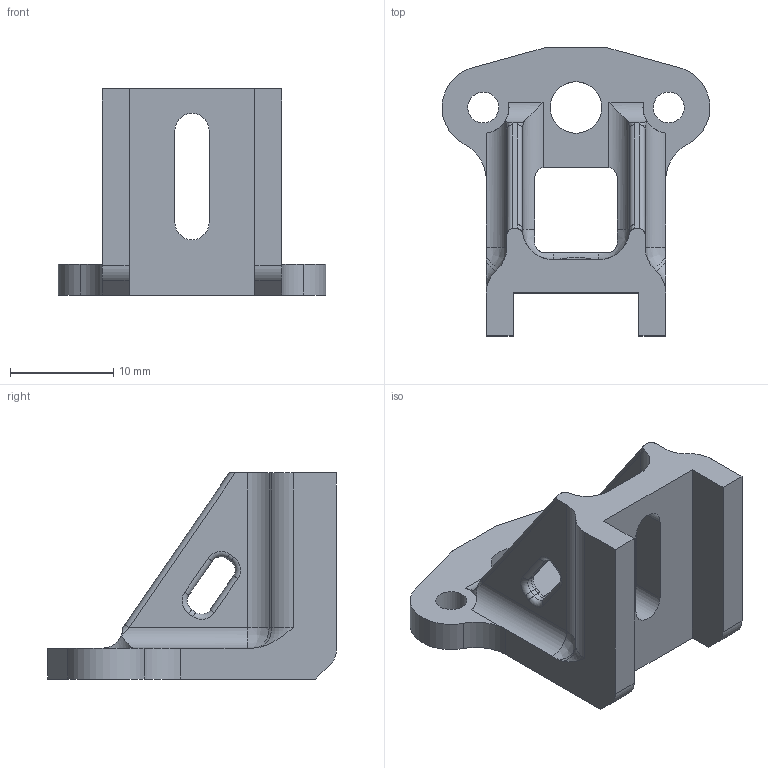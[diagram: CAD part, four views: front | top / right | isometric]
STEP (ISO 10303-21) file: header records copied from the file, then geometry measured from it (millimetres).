
FILE_DESCRIPTION(/* description */ (''),/* implementation_level */ '2;1');
FILE_NAME(/* name */ '/Users/jakeallen/Dropbox/3D Printer Fan Duct Designs/1.) Artillery Sidewinder X1/3D Models/5015 Double Ducts/VOLCANO/Volcano ALL Step Files/BLtouch Bracket.step',/* time_stamp */ '2021-03-05T21:09:01-05:00',/* author */ (''),/* organization */ (''),/* preprocessor_version */ 'ST-DEVELOPER v18.1',/* originating_system */ 'Autodesk Translation Framework v9.10.0.1330',/* authorisation */ '');
FILE_SCHEMA (('AUTOMOTIVE_DESIGN { 1 0 10303 214 3 1 1 }'));
Length unit declared in the file: millimetre
Products named in the file (1): BLtouch Bracket
Bounding box: 25.98 x 28 x 20 mm (x, y, z)
Volume: 2792.3 mm3; surface area: 2663.8 mm2
Topology: 1 solids, 1 shells, 137 faces, 358 edges, 220 vertices
Faces by surface type: cylinder 63, plane 40, bspline 18, torus 16
Full cylindrical faces by diameter (mm): 3 x2, 5 x1
Entity records: 5204 total; most frequent: CARTESIAN_POINT 1791, ORIENTED_EDGE 716, DIRECTION 712, EDGE_CURVE 358, AXIS2_PLACEMENT_3D 273, VERTEX_POINT 220, LINE 166, VECTOR 166
